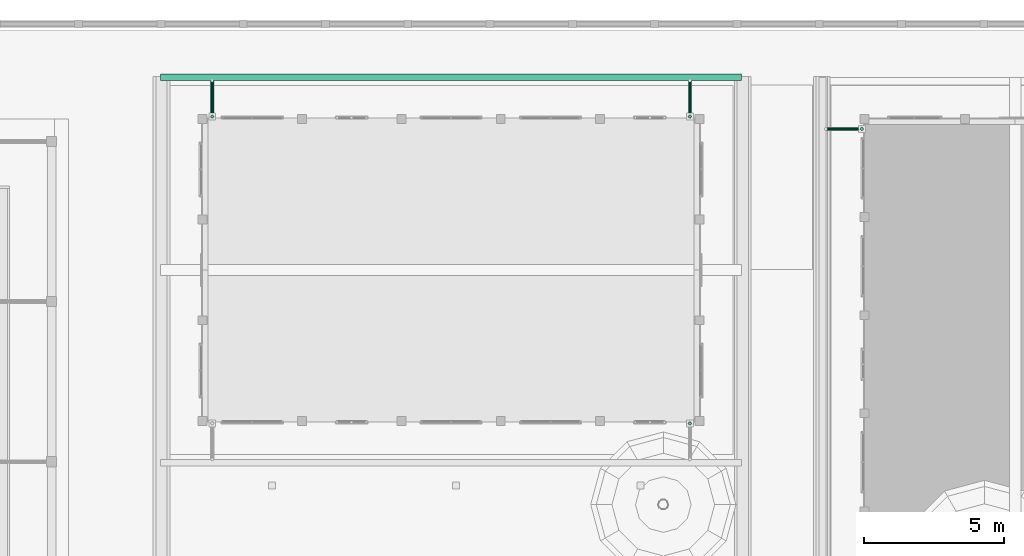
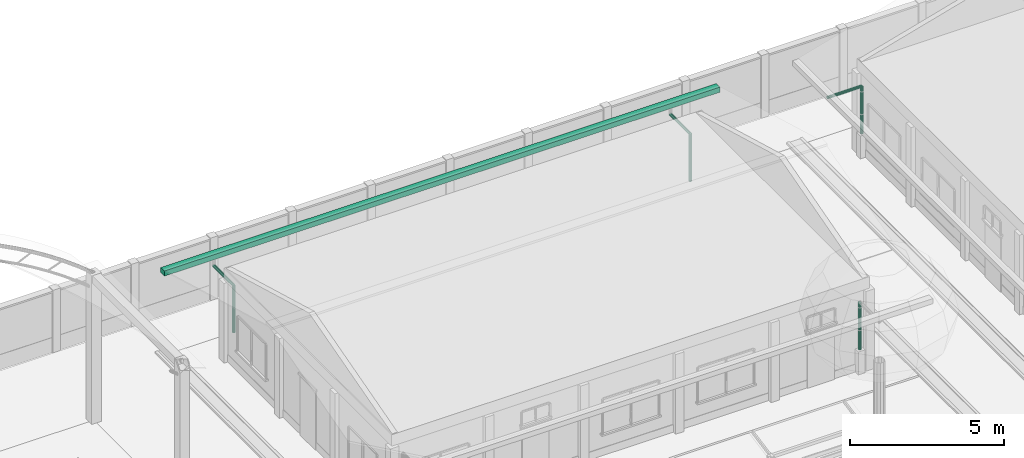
# One storey, part 112 of 177: 8 pipe segments.
"""IFC4 building model written with IfcOpenShell, lengths in metres."""

from ifc_helpers import new_model, si_unit, origin, origin_with_axes, place, context, subcontext, project, spatial, triangles, element, save


model = new_model("IFC4")

# Units and contexts
model_context = context("Model", 3, precision=1e-05, world=origin_with_axes())
body_context = subcontext(model_context, "Body", "Model", "MODEL_VIEW")
ifc_project = project(units=[si_unit("LENGTHUNIT", "METRE"), si_unit("AREAUNIT", "SQUARE_METRE"), si_unit("VOLUMEUNIT", "CUBIC_METRE"), si_unit("PLANEANGLEUNIT", "RADIAN")], contexts=[model_context])

# Site, building, storey
site_placement = place(None, origin_with_axes())
site = spatial("IfcSite", under=ifc_project, at=site_placement, Name="Predio Los Mangos - Morales, San Martín", CompositionType="ELEMENT")
building_placement = place(site_placement, origin())
building = spatial("IfcBuilding", under=site, at=building_placement, Name="Hogar de Refugio Temporal", CompositionType="ELEMENT")
storey_placement = place(building_placement, origin())
storey = spatial("IfcBuildingStorey", under=building, at=storey_placement, Name="NIVEL 1 (NPT +0.00)", CompositionType="ELEMENT", Elevation=0.0)

# Pipe segments
pipe_segment_1_placement = place(storey_placement, origin())
element("IfcPipeSegment", 1, at=pipe_segment_1_placement, inside=storey, Name="E-08_canaleta", ObjectType="Canaleta", PredefinedType="GUTTER", context=body_context, shape_type="Tessellation", body=[
    triangles([(30.5, 129.18, 3.13), (51.3, 129.18, 3.13), (51.3, 129.42, 3.13), (30.5, 129.42, 3.13), (30.5, 129.18, 3.33), (51.3, 129.18, 3.33), (51.3, 129.42, 3.33), (30.5, 129.42, 3.33)], [[1, 4, 3], [1, 3, 2], [5, 6, 7], [5, 7, 8], [1, 2, 6], [1, 6, 5], [2, 3, 7], [2, 7, 6], [3, 4, 8], [3, 8, 7], [4, 1, 5], [4, 5, 8]]),
])
pipe_segment_2_placement = place(storey_placement, origin())
element("IfcPipeSegment", 2, at=pipe_segment_2_placement, inside=storey, Name="montante_bajada", ObjectType="Montante PVC 4\"", PredefinedType="RIGIDSEGMENT", context=body_context, shape_type="Tessellation", body=[
    triangles([(49.45, 116.965, 2.91), (49.45, 116.965, 1.05), (49.4225, 116.9576, 2.91), (49.4225, 116.9576, 1.05), (49.4024, 116.9375, 2.91), (49.4024, 116.9375, 1.05), (49.395, 116.91, 2.91), (49.395, 116.91, 1.05), (49.4024, 116.8825, 2.91), (49.4024, 116.8825, 1.05), (49.4225, 116.8624, 2.91), (49.4225, 116.8624, 1.05), (49.45, 116.855, 2.91), (49.45, 116.855, 1.05), (49.4775, 116.8624, 2.91), (49.4775, 116.8624, 1.05), (49.4976, 116.8825, 2.91), (49.4976, 116.8825, 1.05), (49.505, 116.91, 2.91), (49.505, 116.91, 1.05), (49.4976, 116.9375, 2.91), (49.4976, 116.9375, 1.05), (49.4775, 116.9576, 2.91), (49.4775, 116.9576, 1.05)], [[1, 2, 4], [1, 4, 3], [3, 4, 6], [3, 6, 5], [5, 6, 8], [5, 8, 7], [7, 8, 10], [7, 10, 9], [9, 10, 12], [9, 12, 11], [11, 12, 14], [11, 14, 13], [13, 14, 16], [13, 16, 15], [15, 16, 18], [15, 18, 17], [17, 18, 20], [17, 20, 19], [19, 20, 22], [19, 22, 21], [6, 4, 2], [2, 24, 22], [22, 20, 18], [18, 16, 14], [14, 12, 10], [10, 8, 6], [6, 2, 22], [22, 18, 14], [14, 10, 6], [22, 14, 6], [21, 22, 24], [21, 24, 23], [23, 24, 2], [23, 2, 1], [23, 1, 3], [3, 5, 7], [7, 9, 11], [11, 13, 15], [15, 17, 19], [19, 21, 23], [23, 3, 7], [7, 11, 15], [15, 19, 23], [7, 15, 23]]),
])
pipe_segment_3_placement = place(storey_placement, origin())
element("IfcPipeSegment", 3, at=pipe_segment_3_placement, inside=storey, Name="montante_desvio", ObjectType="Montante PVC 4\"", PredefinedType="RIGIDSEGMENT", context=body_context, shape_type="Tessellation", body=[
    triangles([(32.35, 129.18, 2.965), (32.35, 127.89, 2.965), (32.3775, 129.18, 2.9576), (32.3775, 127.89, 2.9576), (32.3976, 129.18, 2.9375), (32.3976, 127.89, 2.9375), (32.405, 129.18, 2.91), (32.405, 127.89, 2.91), (32.3976, 129.18, 2.8825), (32.3976, 127.89, 2.8825), (32.3775, 129.18, 2.8624), (32.3775, 127.89, 2.8624), (32.35, 129.18, 2.855), (32.35, 127.89, 2.855), (32.3225, 129.18, 2.8624), (32.3225, 127.89, 2.8624), (32.3024, 129.18, 2.8825), (32.3024, 127.89, 2.8825), (32.295, 129.18, 2.91), (32.295, 127.89, 2.91), (32.3024, 129.18, 2.9375), (32.3024, 127.89, 2.9375), (32.3225, 129.18, 2.9576), (32.3225, 127.89, 2.9576)], [[1, 2, 4], [1, 4, 3], [3, 4, 6], [3, 6, 5], [5, 6, 8], [5, 8, 7], [7, 8, 10], [7, 10, 9], [9, 10, 12], [9, 12, 11], [11, 12, 14], [11, 14, 13], [13, 14, 16], [13, 16, 15], [15, 16, 18], [15, 18, 17], [17, 18, 20], [17, 20, 19], [19, 20, 22], [19, 22, 21], [6, 4, 2], [2, 24, 22], [22, 20, 18], [18, 16, 14], [14, 12, 10], [10, 8, 6], [6, 2, 22], [22, 18, 14], [14, 10, 6], [22, 14, 6], [21, 22, 24], [21, 24, 23], [23, 24, 2], [23, 2, 1], [23, 1, 3], [3, 5, 7], [7, 9, 11], [11, 13, 15], [15, 17, 19], [19, 21, 23], [23, 3, 7], [7, 11, 15], [15, 19, 23], [7, 15, 23]]),
])
pipe_segment_4_placement = place(storey_placement, origin())
element("IfcPipeSegment", 4, at=pipe_segment_4_placement, inside=storey, Name="montante_bajada", ObjectType="Montante PVC 4\"", PredefinedType="RIGIDSEGMENT", context=body_context, shape_type="Tessellation", body=[
    triangles([(32.35, 127.945, 2.91), (32.35, 127.945, 1.05), (32.3225, 127.9376, 2.91), (32.3225, 127.9376, 1.05), (32.3024, 127.9175, 2.91), (32.3024, 127.9175, 1.05), (32.295, 127.89, 2.91), (32.295, 127.89, 1.05), (32.3024, 127.8625, 2.91), (32.3024, 127.8625, 1.05), (32.3225, 127.8424, 2.91), (32.3225, 127.8424, 1.05), (32.35, 127.835, 2.91), (32.35, 127.835, 1.05), (32.3775, 127.8424, 2.91), (32.3775, 127.8424, 1.05), (32.3976, 127.8625, 2.91), (32.3976, 127.8625, 1.05), (32.405, 127.89, 2.91), (32.405, 127.89, 1.05), (32.3976, 127.9175, 2.91), (32.3976, 127.9175, 1.05), (32.3775, 127.9376, 2.91), (32.3775, 127.9376, 1.05)], [[1, 2, 4], [1, 4, 3], [3, 4, 6], [3, 6, 5], [5, 6, 8], [5, 8, 7], [7, 8, 10], [7, 10, 9], [9, 10, 12], [9, 12, 11], [11, 12, 14], [11, 14, 13], [13, 14, 16], [13, 16, 15], [15, 16, 18], [15, 18, 17], [17, 18, 20], [17, 20, 19], [19, 20, 22], [19, 22, 21], [6, 4, 2], [2, 24, 22], [22, 20, 18], [18, 16, 14], [14, 12, 10], [10, 8, 6], [6, 2, 22], [22, 18, 14], [14, 10, 6], [22, 14, 6], [21, 22, 24], [21, 24, 23], [23, 24, 2], [23, 2, 1], [23, 1, 3], [3, 5, 7], [7, 9, 11], [11, 13, 15], [15, 17, 19], [19, 21, 23], [23, 3, 7], [7, 11, 15], [15, 19, 23], [7, 15, 23]]),
])
pipe_segment_5_placement = place(storey_placement, origin())
element("IfcPipeSegment", 5, at=pipe_segment_5_placement, inside=storey, Name="montante_desvio", ObjectType="Montante PVC 4\"", PredefinedType="RIGIDSEGMENT", context=body_context, shape_type="Tessellation", body=[
    triangles([(49.45, 129.18, 2.965), (49.45, 127.89, 2.965), (49.4775, 129.18, 2.9576), (49.4775, 127.89, 2.9576), (49.4976, 129.18, 2.9375), (49.4976, 127.89, 2.9375), (49.505, 129.18, 2.91), (49.505, 127.89, 2.91), (49.4976, 129.18, 2.8825), (49.4976, 127.89, 2.8825), (49.4775, 129.18, 2.8624), (49.4775, 127.89, 2.8624), (49.45, 129.18, 2.855), (49.45, 127.89, 2.855), (49.4225, 129.18, 2.8624), (49.4225, 127.89, 2.8624), (49.4024, 129.18, 2.8825), (49.4024, 127.89, 2.8825), (49.395, 129.18, 2.91), (49.395, 127.89, 2.91), (49.4024, 129.18, 2.9375), (49.4024, 127.89, 2.9375), (49.4225, 129.18, 2.9576), (49.4225, 127.89, 2.9576)], [[1, 2, 4], [1, 4, 3], [3, 4, 6], [3, 6, 5], [5, 6, 8], [5, 8, 7], [7, 8, 10], [7, 10, 9], [9, 10, 12], [9, 12, 11], [11, 12, 14], [11, 14, 13], [13, 14, 16], [13, 16, 15], [15, 16, 18], [15, 18, 17], [17, 18, 20], [17, 20, 19], [19, 20, 22], [19, 22, 21], [6, 4, 2], [2, 24, 22], [22, 20, 18], [18, 16, 14], [14, 12, 10], [10, 8, 6], [6, 2, 22], [22, 18, 14], [14, 10, 6], [22, 14, 6], [21, 22, 24], [21, 24, 23], [23, 24, 2], [23, 2, 1], [23, 1, 3], [3, 5, 7], [7, 9, 11], [11, 13, 15], [15, 17, 19], [19, 21, 23], [23, 3, 7], [7, 11, 15], [15, 19, 23], [7, 15, 23]]),
])
pipe_segment_6_placement = place(storey_placement, origin())
element("IfcPipeSegment", 6, at=pipe_segment_6_placement, inside=storey, Name="montante_bajada", ObjectType="Montante PVC 4\"", PredefinedType="RIGIDSEGMENT", context=body_context, shape_type="Tessellation", body=[
    triangles([(49.45, 127.945, 2.91), (49.45, 127.945, 1.05), (49.4225, 127.9376, 2.91), (49.4225, 127.9376, 1.05), (49.4024, 127.9175, 2.91), (49.4024, 127.9175, 1.05), (49.395, 127.89, 2.91), (49.395, 127.89, 1.05), (49.4024, 127.8625, 2.91), (49.4024, 127.8625, 1.05), (49.4225, 127.8424, 2.91), (49.4225, 127.8424, 1.05), (49.45, 127.835, 2.91), (49.45, 127.835, 1.05), (49.4775, 127.8424, 2.91), (49.4775, 127.8424, 1.05), (49.4976, 127.8625, 2.91), (49.4976, 127.8625, 1.05), (49.505, 127.89, 2.91), (49.505, 127.89, 1.05), (49.4976, 127.9175, 2.91), (49.4976, 127.9175, 1.05), (49.4775, 127.9376, 2.91), (49.4775, 127.9376, 1.05)], [[1, 2, 4], [1, 4, 3], [3, 4, 6], [3, 6, 5], [5, 6, 8], [5, 8, 7], [7, 8, 10], [7, 10, 9], [9, 10, 12], [9, 12, 11], [11, 12, 14], [11, 14, 13], [13, 14, 16], [13, 16, 15], [15, 16, 18], [15, 18, 17], [17, 18, 20], [17, 20, 19], [19, 20, 22], [19, 22, 21], [6, 4, 2], [2, 24, 22], [22, 20, 18], [18, 16, 14], [14, 12, 10], [10, 8, 6], [6, 2, 22], [22, 18, 14], [14, 10, 6], [22, 14, 6], [21, 22, 24], [21, 24, 23], [23, 24, 2], [23, 2, 1], [23, 1, 3], [3, 5, 7], [7, 9, 11], [11, 13, 15], [15, 17, 19], [19, 21, 23], [23, 3, 7], [7, 11, 15], [15, 19, 23], [7, 15, 23]]),
])
pipe_segment_7_placement = place(storey_placement, origin())
element("IfcPipeSegment", 7, at=pipe_segment_7_placement, inside=storey, Name="montante_desvio", ObjectType="Montante PVC 4\"", PredefinedType="RIGIDSEGMENT", context=body_context, shape_type="Tessellation", body=[
    triangles([(54.32, 127.45, 2.965), (55.61, 127.45, 2.965), (54.32, 127.4775, 2.9576), (55.61, 127.4775, 2.9576), (54.32, 127.4976, 2.9375), (55.61, 127.4976, 2.9375), (54.32, 127.505, 2.91), (55.61, 127.505, 2.91), (54.32, 127.4976, 2.8825), (55.61, 127.4976, 2.8825), (54.32, 127.4775, 2.8624), (55.61, 127.4775, 2.8624), (54.32, 127.45, 2.855), (55.61, 127.45, 2.855), (54.32, 127.4225, 2.8624), (55.61, 127.4225, 2.8624), (54.32, 127.4024, 2.8825), (55.61, 127.4024, 2.8825), (54.32, 127.395, 2.91), (55.61, 127.395, 2.91), (54.32, 127.4024, 2.9375), (55.61, 127.4024, 2.9375), (54.32, 127.4225, 2.9576), (55.61, 127.4225, 2.9576)], [[1, 2, 4], [1, 4, 3], [3, 4, 6], [3, 6, 5], [5, 6, 8], [5, 8, 7], [7, 8, 10], [7, 10, 9], [9, 10, 12], [9, 12, 11], [11, 12, 14], [11, 14, 13], [13, 14, 16], [13, 16, 15], [15, 16, 18], [15, 18, 17], [17, 18, 20], [17, 20, 19], [19, 20, 22], [19, 22, 21], [6, 4, 2], [2, 24, 22], [22, 20, 18], [18, 16, 14], [14, 12, 10], [10, 8, 6], [6, 2, 22], [22, 18, 14], [14, 10, 6], [22, 14, 6], [21, 22, 24], [21, 24, 23], [23, 24, 2], [23, 2, 1], [23, 1, 3], [3, 5, 7], [7, 9, 11], [11, 13, 15], [15, 17, 19], [19, 21, 23], [23, 3, 7], [7, 11, 15], [15, 19, 23], [7, 15, 23]]),
])
pipe_segment_8_placement = place(storey_placement, origin())
element("IfcPipeSegment", 8, at=pipe_segment_8_placement, inside=storey, Name="montante_bajada", ObjectType="Montante PVC 4\"", PredefinedType="RIGIDSEGMENT", context=body_context, shape_type="Tessellation", body=[
    triangles([(55.61, 127.505, 2.91), (55.61, 127.505, 1.05), (55.5825, 127.4976, 2.91), (55.5825, 127.4976, 1.05), (55.5624, 127.4775, 2.91), (55.5624, 127.4775, 1.05), (55.555, 127.45, 2.91), (55.555, 127.45, 1.05), (55.5624, 127.4225, 2.91), (55.5624, 127.4225, 1.05), (55.5825, 127.4024, 2.91), (55.5825, 127.4024, 1.05), (55.61, 127.395, 2.91), (55.61, 127.395, 1.05), (55.6375, 127.4024, 2.91), (55.6375, 127.4024, 1.05), (55.6576, 127.4225, 2.91), (55.6576, 127.4225, 1.05), (55.665, 127.45, 2.91), (55.665, 127.45, 1.05), (55.6576, 127.4775, 2.91), (55.6576, 127.4775, 1.05), (55.6375, 127.4976, 2.91), (55.6375, 127.4976, 1.05)], [[1, 2, 4], [1, 4, 3], [3, 4, 6], [3, 6, 5], [5, 6, 8], [5, 8, 7], [7, 8, 10], [7, 10, 9], [9, 10, 12], [9, 12, 11], [11, 12, 14], [11, 14, 13], [13, 14, 16], [13, 16, 15], [15, 16, 18], [15, 18, 17], [17, 18, 20], [17, 20, 19], [19, 20, 22], [19, 22, 21], [6, 4, 2], [2, 24, 22], [22, 20, 18], [18, 16, 14], [14, 12, 10], [10, 8, 6], [6, 2, 22], [22, 18, 14], [14, 10, 6], [22, 14, 6], [21, 22, 24], [21, 24, 23], [23, 24, 2], [23, 2, 1], [23, 1, 3], [3, 5, 7], [7, 9, 11], [11, 13, 15], [15, 17, 19], [19, 21, 23], [23, 3, 7], [7, 11, 15], [15, 19, 23], [7, 15, 23]]),
])

save(model, "model.ifc")
